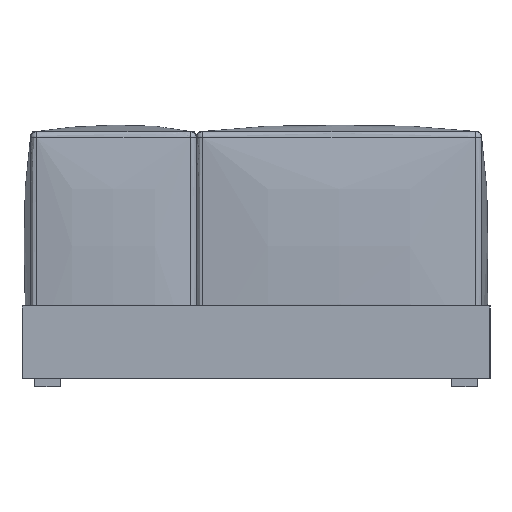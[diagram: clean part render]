
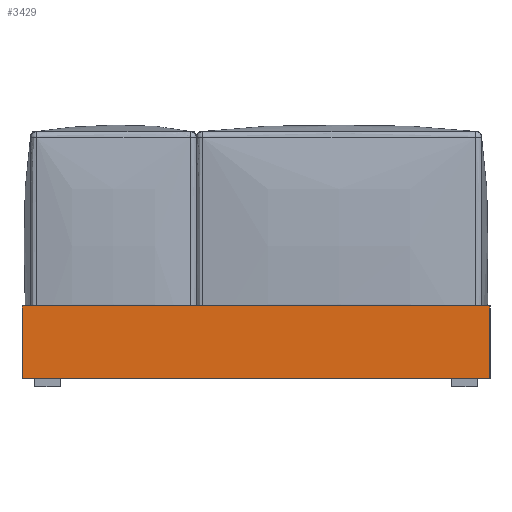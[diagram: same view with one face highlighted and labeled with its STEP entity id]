
A CAD part, left-side view. The second image highlights one B-rep face of the part: STEP entity #3429.
In plain terms, the highlighted planar face has unit normal (-1, 0, 0).
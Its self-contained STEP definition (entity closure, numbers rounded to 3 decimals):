
#121=PLANE('',#3843);
#257=LINE('',#14803,#477);
#258=LINE('',#14805,#478);
#259=LINE('',#14807,#479);
#260=LINE('',#14808,#480);
#477=VECTOR('',#4469,10.);
#478=VECTOR('',#4470,10.);
#479=VECTOR('',#4471,10.);
#480=VECTOR('',#4472,10.);
#1021=FACE_OUTER_BOUND('',#1273,.T.);
#1273=EDGE_LOOP('',(#2877,#2878,#2879,#2880));
#1661=VERTEX_POINT('',#14801);
#1662=VERTEX_POINT('',#14802);
#1663=VERTEX_POINT('',#14804);
#1664=VERTEX_POINT('',#14806);
#2085=EDGE_CURVE('',#1661,#1662,#257,.T.);
#2086=EDGE_CURVE('',#1661,#1663,#258,.T.);
#2087=EDGE_CURVE('',#1664,#1663,#259,.T.);
#2088=EDGE_CURVE('',#1662,#1664,#260,.T.);
#2877=ORIENTED_EDGE('',*,*,#2085,.F.);
#2878=ORIENTED_EDGE('',*,*,#2086,.T.);
#2879=ORIENTED_EDGE('',*,*,#2087,.F.);
#2880=ORIENTED_EDGE('',*,*,#2088,.F.);
#3429=ADVANCED_FACE('',(#1021),#121,.T.);
#3843=AXIS2_PLACEMENT_3D('',#14800,#4467,#4468);
#4467=DIRECTION('center_axis',(-1.,0.,0.));
#4468=DIRECTION('ref_axis',(0.,-1.,0.));
#4469=DIRECTION('',(0.,1.,0.));
#4470=DIRECTION('',(0.,0.,1.));
#4471=DIRECTION('',(0.,-1.,0.));
#4472=DIRECTION('',(0.,0.,1.));
#14800=CARTESIAN_POINT('Origin',(-1500.,550.,0.));
#14801=CARTESIAN_POINT('',(-1500.,-550.,0.));
#14802=CARTESIAN_POINT('',(-1500.,550.,0.));
#14803=CARTESIAN_POINT('',(-1500.,-550.,0.));
#14804=CARTESIAN_POINT('',(-1500.,-550.,170.));
#14805=CARTESIAN_POINT('',(-1500.,-550.,0.));
#14806=CARTESIAN_POINT('',(-1500.,550.,170.));
#14807=CARTESIAN_POINT('',(-1500.,-550.,170.));
#14808=CARTESIAN_POINT('',(-1500.,550.,0.));
